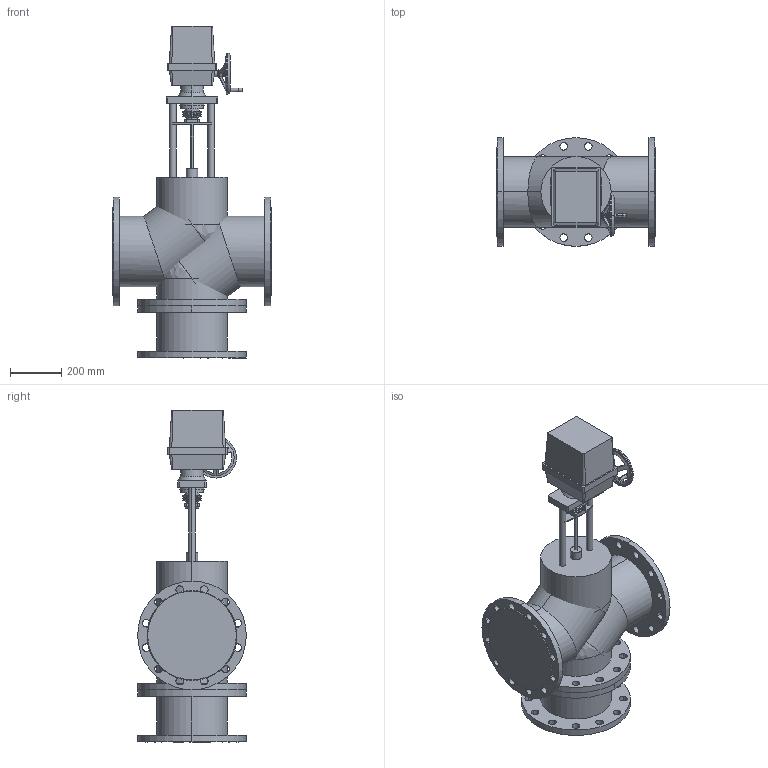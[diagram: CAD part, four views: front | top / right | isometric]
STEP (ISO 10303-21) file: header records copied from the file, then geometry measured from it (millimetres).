
FILE_DESCRIPTION(/* description */ (''),/* implementation_level */ '2;1');
FILE_NAME(/* name */ 'ТРК DN250 PN 2.5 МПа Regada ST2',/* time_stamp */ '2026-07-14T23:15:40+03:00',/* author */ (''),/* organization */ (''),/* preprocessor_version */ 'ST-DEVELOPER v20',/* originating_system */ '',/* authorisation */ '');
FILE_SCHEMA (('AP242_MANAGED_MODEL_BASED_3D_ENGINEERING_MIM_LF { 1 0 10303 442 1 1 4 }'));
Length unit declared in the file: millimetre
Products named in the file (16): TopLevelAssembly; Выдавливание; Модификатор; Модификатор_1; Выдавливание_
1; Выдавливание_
2; Вращение; Выдавливание_
3; Выдавливание_
4; Выдавливание_
5; Выдавливание_
6; Выдавливание_
7; Привод_Regada ST 2; Переход; Объемная геометрия 
присоединена; Объемная геометрия 
присоединена_1
Assembly tree (15 placements, depth 2):
  TopLevelAssembly
    Выдавливание
    Модификатор
    Модификатор_1
    Выдавливание_
1
    Выдавливание_
2
    Вращение
    Выдавливание_
3
    Выдавливание_
4
    Выдавливание_
5
    Выдавливание_
6
    Выдавливание_
7
    Привод_Regada ST 2
    Переход
    Объемная геометрия 
присоединена
    Объемная геометрия 
присоединена_1
Bounding box: 622 x 425 x 1299 mm (x, y, z)
Volume: 105600939.5 mm3; surface area: 4226484.7 mm2
Topology: 31 solids, 31 shells, 396 faces, 950 edges, 592 vertices
Faces by surface type: cylinder 212, plane 122, bspline 58, cone 4
Entity records: 13469 total; most frequent: CARTESIAN_POINT 3127, DIRECTION 2210, ORIENTED_EDGE 1880, EDGE_CURVE 940, AXIS2_PLACEMENT_3D 925, VERTEX_POINT 592, CIRCLE 548, EDGE_LOOP 518
